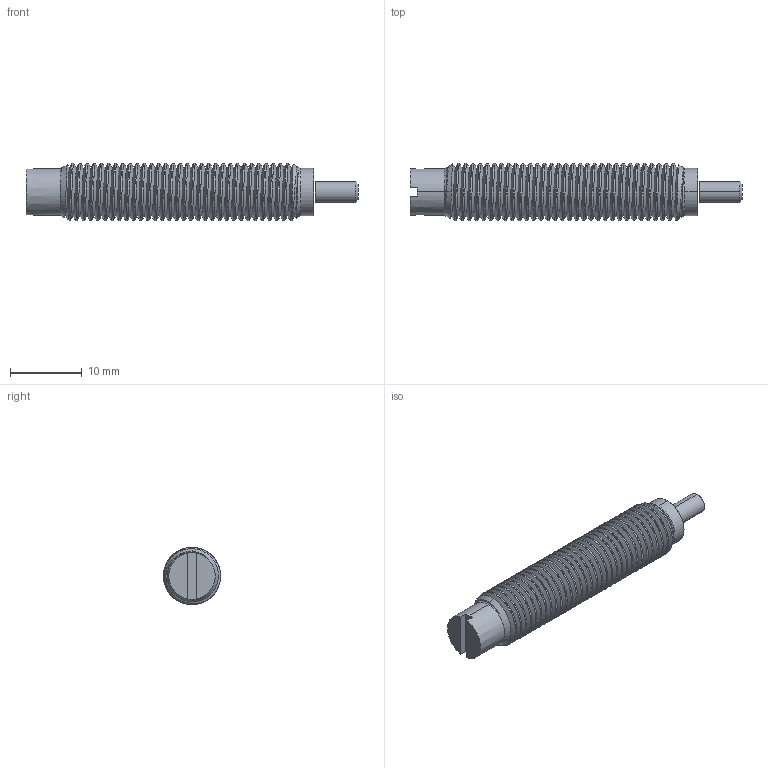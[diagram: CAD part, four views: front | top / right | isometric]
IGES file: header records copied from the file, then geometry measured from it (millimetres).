
Start section: SolidWorks IGES file using analytic representation for surfaces
Global section: file name: 4HC:\Documents and Settings\Administrator\桌面\零件1.IGS; native system: SolidWorks 2011; preprocessor: SolidWorks 2011; author: Administrator; date: 120807.084008; units: millimetre
Bounding box: 46.4 x 8 x 8 mm (x, y, z)
Surface area: 1643.5 mm2 (no closed solid volume)
Topology: 0 solids, 0 shells, 89 faces, 1660 edges, 1660 vertices
Faces by surface type: revolution 79, bspline 10
